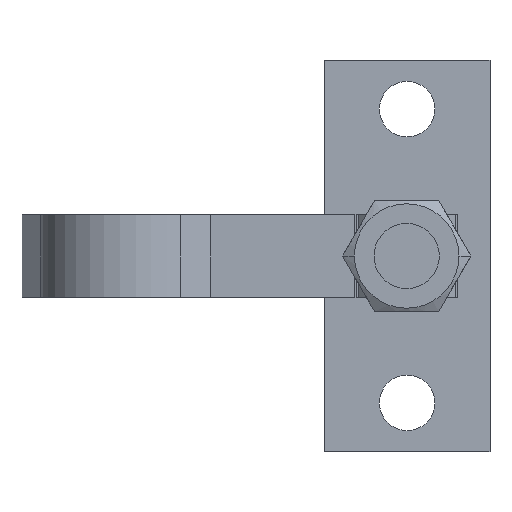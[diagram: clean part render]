
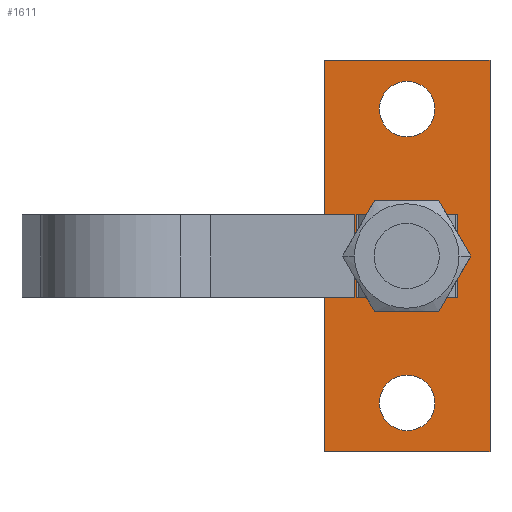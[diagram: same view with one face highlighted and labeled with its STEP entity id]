
A CAD part, left-side view. The second image highlights one B-rep face of the part: STEP entity #1611.
In plain terms, the highlighted planar face has unit normal (-1, 0, 0) as drawn and (0, -1, 0) by its records, which use the part's own axes.
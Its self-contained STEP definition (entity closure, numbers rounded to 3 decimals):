
#16 = CARTESIAN_POINT ( 'NONE',  ( -6.4, -7.938, -7.7 ) ) ;
#17 = DIRECTION ( 'NONE',  ( 0., 0., 1. ) ) ;
#41 = DIRECTION ( 'NONE',  ( 0., 0., 1. ) ) ;
#46 = CARTESIAN_POINT ( 'NONE',  ( -30., -7.937, 12.7 ) ) ;
#310 = DIRECTION ( 'NONE',  ( 0., 0., -1. ) ) ;
#319 = CARTESIAN_POINT ( 'NONE',  ( 30., -7.937, 12.7 ) ) ;
#324 = DIRECTION ( 'NONE',  ( 0., -1., 0. ) ) ;
#401 = PLANE ( 'NONE',  #3219 ) ;
#459 = VERTEX_POINT ( 'NONE', #2850 ) ;
#464 = VERTEX_POINT ( 'NONE', #2870 ) ;
#468 = VERTEX_POINT ( 'NONE', #2785 ) ;
#473 = VERTEX_POINT ( 'NONE', #2898 ) ;
#474 = VERTEX_POINT ( 'NONE', #2917 ) ;
#475 = VERTEX_POINT ( 'NONE', #2838 ) ;
#477 = VERTEX_POINT ( 'NONE', #2857 ) ;
#504 = VERTEX_POINT ( 'NONE', #2913 ) ;
#537 = VERTEX_POINT ( 'NONE', #2826 ) ;
#561 = VERTEX_POINT ( 'NONE', #2899 ) ;
#606 = VERTEX_POINT ( 'NONE', #2390 ) ;
#866 = ORIENTED_EDGE ( 'NONE', *, *, #3318, .T. ) ;
#888 = ORIENTED_EDGE ( 'NONE', *, *, #3183, .T. ) ;
#893 = ORIENTED_EDGE ( 'NONE', *, *, #3515, .F. ) ;
#931 = FACE_BOUND ( 'NONE', #1232, .T. ) ;
#932 = FACE_BOUND ( 'NONE', #2091, .T. ) ;
#936 = FACE_OUTER_BOUND ( 'NONE', #4169, .T. ) ;
#937 = FACE_BOUND ( 'NONE', #4158, .T. ) ;
#1051 = ORIENTED_EDGE ( 'NONE', *, *, #3095, .T. ) ;
#1062 = ORIENTED_EDGE ( 'NONE', *, *, #3091, .T. ) ;
#1103 = ORIENTED_EDGE ( 'NONE', *, *, #3413, .T. ) ;
#1232 = EDGE_LOOP ( 'NONE', ( #1103, #1062, #866, #1051 ) ) ;
#1242 = ORIENTED_EDGE ( 'NONE', *, *, #3190, .T. ) ;
#1286 = VERTEX_POINT ( 'NONE', #2381 ) ;
#1311 = CARTESIAN_POINT ( 'NONE',  ( 6.4, -7.938, -7.7 ) ) ;
#1316 = DIRECTION ( 'NONE',  ( 0., 0., -1. ) ) ;
#1338 = CARTESIAN_POINT ( 'NONE',  ( -22.5, -7.938, 0. ) ) ;
#1339 = DIRECTION ( 'NONE',  ( 0., 1., 0. ) ) ;
#1340 = DIRECTION ( 'NONE',  ( 0., 0., 1. ) ) ;
#1361 = CARTESIAN_POINT ( 'NONE',  ( -30., -7.938, -12.7 ) ) ;
#1366 = DIRECTION ( 'NONE',  ( -1., 0., 0. ) ) ;
#1371 = CARTESIAN_POINT ( 'NONE',  ( 22.5, -7.938, 0. ) ) ;
#1372 = DIRECTION ( 'NONE',  ( 0., 1., 0. ) ) ;
#1373 = DIRECTION ( 'NONE',  ( 0., 0., 1. ) ) ;
#1404 = CARTESIAN_POINT ( 'NONE',  ( 30., -7.938, -12.7 ) ) ;
#1405 = DIRECTION ( 'NONE',  ( 0., 0., -1. ) ) ;
#1447 = LINE ( 'NONE', #16, #1449 ) ;
#1449 = VECTOR ( 'NONE', #17, 1000. ) ;
#1460 = LINE ( 'NONE', #46, #1465 ) ;
#1465 = VECTOR ( 'NONE', #41, 1000. ) ;
#1512 = LINE ( 'NONE', #1311, #1517 ) ;
#1517 = VECTOR ( 'NONE', #1316, 1000. ) ;
#1530 = CIRCLE ( 'NONE', #3214, 4.25 ) ;
#1546 = LINE ( 'NONE', #1361, #1552 ) ;
#1552 = VECTOR ( 'NONE', #1366, 1000. ) ;
#1554 = CIRCLE ( 'NONE', #3078, 4.25 ) ;
#1611 = ADVANCED_FACE ( 'NONE', ( #931, #937, #932, #936 ), #401, .T. ) ;
#2091 = EDGE_LOOP ( 'NONE', ( #3736, #1242 ) ) ;
#2166 = LINE ( 'NONE', #1404, #2169 ) ;
#2169 = VECTOR ( 'NONE', #1405, 1000. ) ;
#2194 = LINE ( 'NONE', #3832, #2195 ) ;
#2195 = VECTOR ( 'NONE', #3834, 1000. ) ;
#2381 = CARTESIAN_POINT ( 'NONE',  ( -22.5, -7.938, -4.25 ) ) ;
#2390 = CARTESIAN_POINT ( 'NONE',  ( -6.4, -7.938, -7.7 ) ) ;
#2480 = CARTESIAN_POINT ( 'NONE',  ( -22.5, -7.938, 0. ) ) ;
#2481 = DIRECTION ( 'NONE',  ( 0., 1., 0. ) ) ;
#2482 = DIRECTION ( 'NONE',  ( 0., 0., 1. ) ) ;
#2488 = CARTESIAN_POINT ( 'NONE',  ( 22.5, -7.938, 0. ) ) ;
#2489 = DIRECTION ( 'NONE',  ( 0., 1., 0. ) ) ;
#2490 = DIRECTION ( 'NONE',  ( 0., 0., 1. ) ) ;
#2785 = CARTESIAN_POINT ( 'NONE',  ( 30., -7.938, -12.7 ) ) ;
#2826 = CARTESIAN_POINT ( 'NONE',  ( 30., -7.937, 12.7 ) ) ;
#2838 = CARTESIAN_POINT ( 'NONE',  ( -22.5, -7.938, 4.25 ) ) ;
#2850 = CARTESIAN_POINT ( 'NONE',  ( -30., -7.937, 12.7 ) ) ;
#2857 = CARTESIAN_POINT ( 'NONE',  ( 6.4, -7.938, -7.7 ) ) ;
#2870 = CARTESIAN_POINT ( 'NONE',  ( -30., -7.938, -12.7 ) ) ;
#2898 = CARTESIAN_POINT ( 'NONE',  ( 6.4, -7.938, 7.7 ) ) ;
#2899 = CARTESIAN_POINT ( 'NONE',  ( 22.5, -7.938, 4.25 ) ) ;
#2913 = CARTESIAN_POINT ( 'NONE',  ( 22.5, -7.938, -4.25 ) ) ;
#2917 = CARTESIAN_POINT ( 'NONE',  ( -6.4, -7.938, 7.7 ) ) ;
#2932 = LINE ( 'NONE', #4074, #2937 ) ;
#2937 = VECTOR ( 'NONE', #4069, 1000. ) ;
#2938 = LINE ( 'NONE', #4085, #2943 ) ;
#2943 = VECTOR ( 'NONE', #4080, 1000. ) ;
#3020 = CIRCLE ( 'NONE', #3063, 4.25 ) ;
#3022 = CIRCLE ( 'NONE', #3674, 4.25 ) ;
#3063 = AXIS2_PLACEMENT_3D ( 'NONE', #2480, #2481, #2482 ) ;
#3078 = AXIS2_PLACEMENT_3D ( 'NONE', #1371, #1372, #1373 ) ;
#3091 = EDGE_CURVE ( 'NONE', #477, #606, #2932, .T. ) ;
#3095 = EDGE_CURVE ( 'NONE', #474, #473, #2938, .T. ) ;
#3183 = EDGE_CURVE ( 'NONE', #1286, #475, #3020, .T. ) ;
#3190 = EDGE_CURVE ( 'NONE', #504, #561, #3022, .T. ) ;
#3214 = AXIS2_PLACEMENT_3D ( 'NONE', #1338, #1339, #1340 ) ;
#3219 = AXIS2_PLACEMENT_3D ( 'NONE', #319, #324, #310 ) ;
#3318 = EDGE_CURVE ( 'NONE', #606, #474, #1447, .T. ) ;
#3344 = EDGE_CURVE ( 'NONE', #464, #459, #1460, .T. ) ;
#3413 = EDGE_CURVE ( 'NONE', #473, #477, #1512, .T. ) ;
#3448 = EDGE_CURVE ( 'NONE', #475, #1286, #1530, .T. ) ;
#3478 = EDGE_CURVE ( 'NONE', #468, #464, #1546, .T. ) ;
#3487 = EDGE_CURVE ( 'NONE', #561, #504, #1554, .T. ) ;
#3515 = EDGE_CURVE ( 'NONE', #537, #468, #2166, .T. ) ;
#3566 = EDGE_CURVE ( 'NONE', #459, #537, #2194, .T. ) ;
#3674 = AXIS2_PLACEMENT_3D ( 'NONE', #2488, #2489, #2490 ) ;
#3718 = ORIENTED_EDGE ( 'NONE', *, *, #3448, .T. ) ;
#3731 = ORIENTED_EDGE ( 'NONE', *, *, #3566, .F. ) ;
#3736 = ORIENTED_EDGE ( 'NONE', *, *, #3487, .T. ) ;
#3762 = ORIENTED_EDGE ( 'NONE', *, *, #3478, .F. ) ;
#3767 = ORIENTED_EDGE ( 'NONE', *, *, #3344, .F. ) ;
#3832 = CARTESIAN_POINT ( 'NONE',  ( 30., -7.937, 12.7 ) ) ;
#3834 = DIRECTION ( 'NONE',  ( 1., 0., 0. ) ) ;
#4069 = DIRECTION ( 'NONE',  ( -1., 0., 0. ) ) ;
#4074 = CARTESIAN_POINT ( 'NONE',  ( 6.4, -7.938, -7.7 ) ) ;
#4080 = DIRECTION ( 'NONE',  ( 1., 0., 0. ) ) ;
#4085 = CARTESIAN_POINT ( 'NONE',  ( 6.4, -7.938, 7.7 ) ) ;
#4158 = EDGE_LOOP ( 'NONE', ( #3718, #888 ) ) ;
#4169 = EDGE_LOOP ( 'NONE', ( #893, #3731, #3767, #3762 ) ) ;
